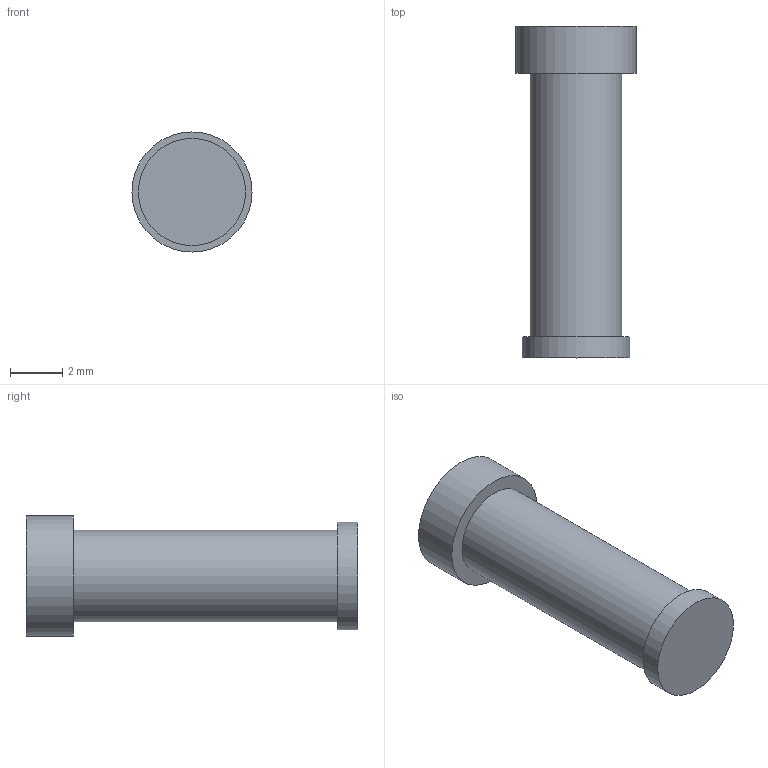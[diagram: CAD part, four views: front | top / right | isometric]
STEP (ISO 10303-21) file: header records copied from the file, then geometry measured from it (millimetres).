
FILE_DESCRIPTION(('Open CASCADE Model'),'2;1');
FILE_NAME('MW-P-005_PRESS_TO_ARM_PLUNGER','2026-08-22T00:00:00',( 'Author'),('Open CASCADE'),'Open CASCADE STEP processor 7.8', 'build123d','Unknown');
FILE_SCHEMA(('AUTOMOTIVE_DESIGN { 1 0 10303 214 1 1 1 1 }'));
Length unit declared in the file: millimetre
Products named in the file (1): MW-P-005_PRESS_TO_ARM_PLUNGER
Bounding box: 4.6 x 12.7 x 4.6 mm (x, y, z)
Volume: 137.6 mm3; surface area: 187.8 mm2
Topology: 1 solids, 1 shells, 7 faces, 9 edges, 6 vertices
Faces by surface type: plane 4, cylinder 3
Full cylindrical faces by diameter (mm): 3.5 x1, 4.1 x1, 4.6 x1
Entity records: 285 total; most frequent: DIRECTION 49, CARTESIAN_POINT 41, ORIENTED_EDGE 18, PCURVE 18, DEFINITIONAL_REPRESENTATION 18, LINE 15, VECTOR 15, AXIS2_PLACEMENT_3D 14
